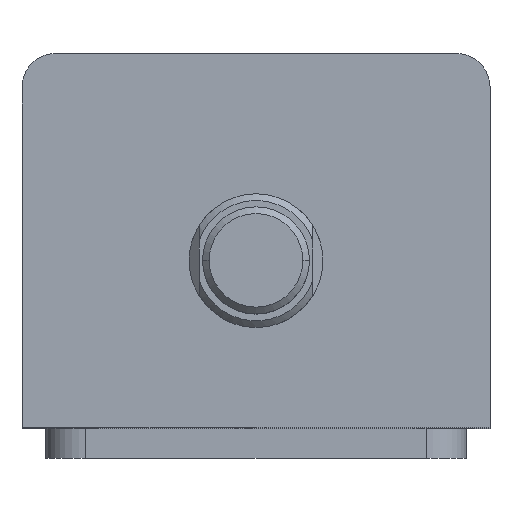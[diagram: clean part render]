
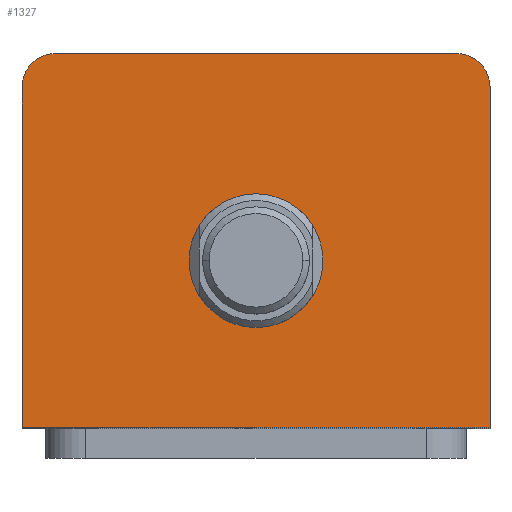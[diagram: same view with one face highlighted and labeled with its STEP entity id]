
A CAD part, top view. The second image highlights one B-rep face of the part: STEP entity #1327.
In plain terms, the highlighted planar face has unit normal (0, 0, 1).
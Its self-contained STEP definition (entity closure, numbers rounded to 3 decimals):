
#7 = EDGE_LOOP ( 'NONE', ( #2323, #2322, #2321, #2320, #2319, #2318 ) ) ;
#22 = EDGE_LOOP ( 'NONE', ( #2325, #2324 ) ) ;
#41 = CIRCLE ( 'NONE', #2138, 5. ) ;
#77 = CIRCLE ( 'NONE', #2123, 10. ) ;
#79 = CIRCLE ( 'NONE', #2122, 5. ) ;
#100 = LINE ( 'NONE', #1936, #104 ) ;
#104 = VECTOR ( 'NONE', #1920, 1000. ) ;
#140 = LINE ( 'NONE', #1800, #145 ) ;
#142 = CIRCLE ( 'NONE', #2117, 10. ) ;
#145 = VECTOR ( 'NONE', #1772, 1000. ) ;
#186 = LINE ( 'NONE', #2027, #189 ) ;
#189 = VECTOR ( 'NONE', #2026, 1000. ) ;
#361 = FACE_BOUND ( 'NONE', #22, .T. ) ;
#371 = FACE_OUTER_BOUND ( 'NONE', #7, .T. ) ;
#761 = EDGE_CURVE ( 'NONE', #2598, #2641, #2761, .T. ) ;
#792 = EDGE_CURVE ( 'NONE', #2570, #2598, #41, .T. ) ;
#817 = EDGE_CURVE ( 'NONE', #2678, #2560, #77, .T. ) ;
#818 = EDGE_CURVE ( 'NONE', #2641, #2650, #79, .T. ) ;
#833 = EDGE_CURVE ( 'NONE', #2650, #2683, #100, .T. ) ;
#856 = EDGE_CURVE ( 'NONE', #2683, #2566, #140, .T. ) ;
#859 = EDGE_CURVE ( 'NONE', #2560, #2678, #142, .T. ) ;
#880 = EDGE_CURVE ( 'NONE', #2566, #2570, #186, .T. ) ;
#968 = CARTESIAN_POINT ( 'NONE',  ( 30., 23., 59. ) ) ;
#969 = DIRECTION ( 'NONE',  ( 1., 0., 0. ) ) ;
#975 = DIRECTION ( 'NONE',  ( 0., 0., 1. ) ) ;
#1068 = CARTESIAN_POINT ( 'NONE',  ( -35., 28., 59. ) ) ;
#1151 = DIRECTION ( 'NONE',  ( -1., 0., 0. ) ) ;
#1327 = ADVANCED_FACE ( 'NONE', ( #361, #371 ), #3045, .T. ) ;
#1384 = CARTESIAN_POINT ( 'NONE',  ( -35., -28., 59. ) ) ;
#1401 = CARTESIAN_POINT ( 'NONE',  ( -10., -3., 59. ) ) ;
#1501 = CARTESIAN_POINT ( 'NONE',  ( -35., 23., 59. ) ) ;
#1698 = AXIS2_PLACEMENT_3D ( 'NONE', #3049, #3042, #3041 ) ;
#1725 = DIRECTION ( 'NONE',  ( 1., 0., 0. ) ) ;
#1727 = DIRECTION ( 'NONE',  ( 0., 0., 1. ) ) ;
#1731 = CARTESIAN_POINT ( 'NONE',  ( 0., -3., 59. ) ) ;
#1772 = DIRECTION ( 'NONE',  ( 1., 0., 0. ) ) ;
#1800 = CARTESIAN_POINT ( 'NONE',  ( -35., -28., 59. ) ) ;
#1920 = DIRECTION ( 'NONE',  ( 0., -1., 0. ) ) ;
#1936 = CARTESIAN_POINT ( 'NONE',  ( -35., 28., 59. ) ) ;
#2023 = DIRECTION ( 'NONE',  ( 1., 0., 0. ) ) ;
#2026 = DIRECTION ( 'NONE',  ( 0., 1., 0. ) ) ;
#2027 = CARTESIAN_POINT ( 'NONE',  ( 35., 28., 59. ) ) ;
#2034 = DIRECTION ( 'NONE',  ( 1., 0., 0. ) ) ;
#2035 = DIRECTION ( 'NONE',  ( 0., 0., 1. ) ) ;
#2036 = CARTESIAN_POINT ( 'NONE',  ( -30., 23., 59. ) ) ;
#2038 = DIRECTION ( 'NONE',  ( 0., 0., 1. ) ) ;
#2047 = CARTESIAN_POINT ( 'NONE',  ( 0., -3., 59. ) ) ;
#2117 = AXIS2_PLACEMENT_3D ( 'NONE', #1731, #1727, #1725 ) ;
#2122 = AXIS2_PLACEMENT_3D ( 'NONE', #2036, #2035, #2034 ) ;
#2123 = AXIS2_PLACEMENT_3D ( 'NONE', #2047, #2038, #2023 ) ;
#2138 = AXIS2_PLACEMENT_3D ( 'NONE', #968, #975, #969 ) ;
#2318 = ORIENTED_EDGE ( 'NONE', *, *, #856, .T. ) ;
#2319 = ORIENTED_EDGE ( 'NONE', *, *, #833, .T. ) ;
#2320 = ORIENTED_EDGE ( 'NONE', *, *, #818, .T. ) ;
#2321 = ORIENTED_EDGE ( 'NONE', *, *, #761, .T. ) ;
#2322 = ORIENTED_EDGE ( 'NONE', *, *, #792, .T. ) ;
#2323 = ORIENTED_EDGE ( 'NONE', *, *, #880, .T. ) ;
#2324 = ORIENTED_EDGE ( 'NONE', *, *, #817, .F. ) ;
#2325 = ORIENTED_EDGE ( 'NONE', *, *, #859, .F. ) ;
#2560 = VERTEX_POINT ( 'NONE', #2892 ) ;
#2566 = VERTEX_POINT ( 'NONE', #2887 ) ;
#2570 = VERTEX_POINT ( 'NONE', #2881 ) ;
#2598 = VERTEX_POINT ( 'NONE', #2850 ) ;
#2641 = VERTEX_POINT ( 'NONE', #2802 ) ;
#2650 = VERTEX_POINT ( 'NONE', #1501 ) ;
#2678 = VERTEX_POINT ( 'NONE', #1401 ) ;
#2683 = VERTEX_POINT ( 'NONE', #1384 ) ;
#2761 = LINE ( 'NONE', #1068, #2763 ) ;
#2763 = VECTOR ( 'NONE', #1151, 1000. ) ;
#2802 = CARTESIAN_POINT ( 'NONE',  ( -30., 28., 59. ) ) ;
#2850 = CARTESIAN_POINT ( 'NONE',  ( 30., 28., 59. ) ) ;
#2881 = CARTESIAN_POINT ( 'NONE',  ( 35., 23., 59. ) ) ;
#2887 = CARTESIAN_POINT ( 'NONE',  ( 35., -28., 59. ) ) ;
#2892 = CARTESIAN_POINT ( 'NONE',  ( 10., -3., 59. ) ) ;
#3041 = DIRECTION ( 'NONE',  ( 1., 0., 0. ) ) ;
#3042 = DIRECTION ( 'NONE',  ( 0., 0., 1. ) ) ;
#3045 = PLANE ( 'NONE',  #1698 ) ;
#3049 = CARTESIAN_POINT ( 'NONE',  ( 0., 0., 59. ) ) ;
